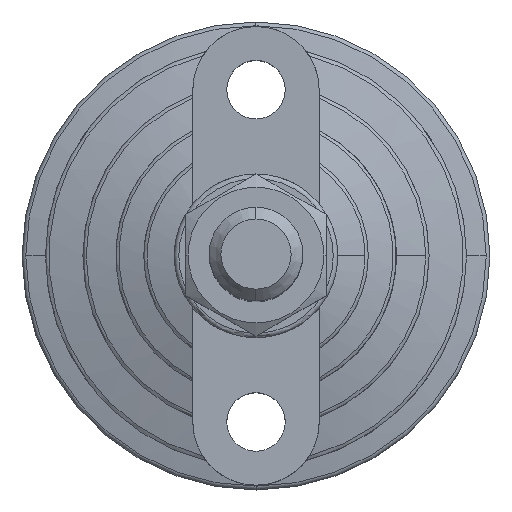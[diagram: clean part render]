
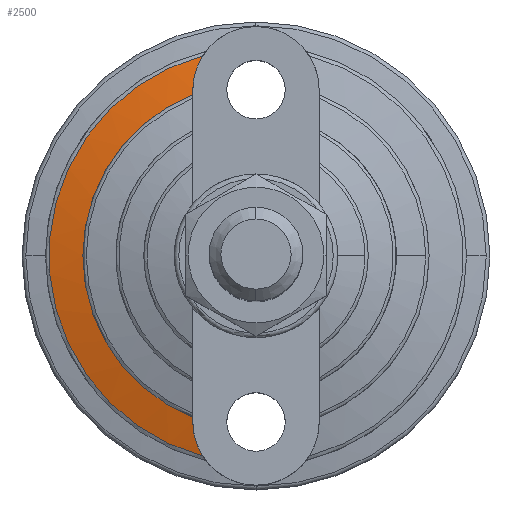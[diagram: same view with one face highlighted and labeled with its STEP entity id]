
A CAD part, top view. The second image highlights one B-rep face of the part: STEP entity #2500.
In plain terms, the highlighted conical face has half-angle 75.964 degrees and reference radius 37 mm.
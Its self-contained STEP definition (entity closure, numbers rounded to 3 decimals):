
#28 = EDGE_CURVE ( 'NONE', #1020, #3276, #953, .T. ) ;
#32 = B_SPLINE_CURVE_WITH_KNOTS ( 'NONE', 3,
 ( #2930, #573, #69, #2732 ),
 .UNSPECIFIED., .F., .F.,
 ( 4, 4 ),
 ( 0., 0.001 ),
 .UNSPECIFIED. ) ;
#35 = DIRECTION ( 'NONE',  ( 0., 0., 1. ) ) ;
#53 = CARTESIAN_POINT ( 'NONE',  ( -11.387, -42.752, 12.189 ) ) ;
#69 = CARTESIAN_POINT ( 'NONE',  ( -13.5, 34.8, 13.918 ) ) ;
#120 = DIRECTION ( 'NONE',  ( 0., 0., -1. ) ) ;
#187 = AXIS2_PLACEMENT_3D ( 'NONE', #2727, #1927, #2995 ) ;
#204 = B_SPLINE_CURVE_WITH_KNOTS ( 'NONE', 3,
 ( #2946, #3043, #612, #1894, #2158, #1881, #3221, #2959 ),
 .UNSPECIFIED., .F., .F.,
 ( 4, 2, 2, 4 ),
 ( 0., 0.004, 0.006, 0.008 ),
 .UNSPECIFIED. ) ;
#256 = ORIENTED_EDGE ( 'NONE', *, *, #28, .T. ) ;
#290 = CARTESIAN_POINT ( 'NONE',  ( -11.387, 42.752, 12.189 ) ) ;
#368 = CARTESIAN_POINT ( 'NONE',  ( -13.5, 35.5, 13.755 ) ) ;
#391 = CARTESIAN_POINT ( 'NONE',  ( -13.5, -34.449, 14. ) ) ;
#392 = CIRCLE ( 'NONE', #2251, 44.243 ) ;
#407 = EDGE_CURVE ( 'NONE', #1608, #3008, #392, .T. ) ;
#445 = EDGE_CURVE ( 'NONE', #3008, #1020, #204, .T. ) ;
#485 = B_SPLINE_CURVE_WITH_KNOTS ( 'NONE', 3,
 ( #290, #1877, #2172, #2384, #2416, #2941, #548, #2118 ),
 .UNSPECIFIED., .F., .F.,
 ( 4, 2, 2, 4 ),
 ( 0., 0.004, 0.006, 0.008 ),
 .UNSPECIFIED. ) ;
#527 = VERTEX_POINT ( 'NONE', #1691 ) ;
#548 = CARTESIAN_POINT ( 'NONE',  ( -13.5, 36.139, 13.606 ) ) ;
#573 = CARTESIAN_POINT ( 'NONE',  ( -13.5, 35.15, 13.837 ) ) ;
#612 = CARTESIAN_POINT ( 'NONE',  ( -12.604, -40.501, 12.647 ) ) ;
#757 = ORIENTED_EDGE ( 'NONE', *, *, #1292, .T. ) ;
#826 = VERTEX_POINT ( 'NONE', #368 ) ;
#858 = CARTESIAN_POINT ( 'NONE',  ( -13.5, -35.5, 13.755 ) ) ;
#953 = B_SPLINE_CURVE_WITH_KNOTS ( 'NONE', 3,
 ( #858, #3272, #1143, #1374 ),
 .UNSPECIFIED., .F., .F.,
 ( 4, 4 ),
 ( 0., 0.001 ),
 .UNSPECIFIED. ) ;
#967 = CONICAL_SURFACE ( 'NONE', #187, 37., 1.326 ) ;
#1020 = VERTEX_POINT ( 'NONE', #2791 ) ;
#1093 = ORIENTED_EDGE ( 'NONE', *, *, #3051, .F. ) ;
#1143 = CARTESIAN_POINT ( 'NONE',  ( -13.5, -34.8, 13.918 ) ) ;
#1243 = DIRECTION ( 'NONE',  ( 0., 1., 0. ) ) ;
#1292 = EDGE_CURVE ( 'NONE', #3276, #527, #1524, .T. ) ;
#1374 = CARTESIAN_POINT ( 'NONE',  ( -13.5, -34.449, 14. ) ) ;
#1524 = CIRCLE ( 'NONE', #2373, 37. ) ;
#1608 = VERTEX_POINT ( 'NONE', #1666 ) ;
#1610 = ORIENTED_EDGE ( 'NONE', *, *, #407, .T. ) ;
#1666 = CARTESIAN_POINT ( 'NONE',  ( -11.387, 42.752, 12.189 ) ) ;
#1691 = CARTESIAN_POINT ( 'NONE',  ( -13.5, 34.449, 14. ) ) ;
#1877 = CARTESIAN_POINT ( 'NONE',  ( -12.082, 41.661, 12.408 ) ) ;
#1881 = CARTESIAN_POINT ( 'NONE',  ( -13.455, -36.774, 13.461 ) ) ;
#1894 = CARTESIAN_POINT ( 'NONE',  ( -13.139, -38.665, 13.041 ) ) ;
#1927 = DIRECTION ( 'NONE',  ( 0., 0., -1. ) ) ;
#1944 = FACE_OUTER_BOUND ( 'NONE', #2848, .T. ) ;
#2118 = CARTESIAN_POINT ( 'NONE',  ( -13.5, 35.5, 13.755 ) ) ;
#2158 = CARTESIAN_POINT ( 'NONE',  ( -13.275, -38.035, 13.179 ) ) ;
#2172 = CARTESIAN_POINT ( 'NONE',  ( -12.604, 40.501, 12.647 ) ) ;
#2175 = ORIENTED_EDGE ( 'NONE', *, *, #445, .T. ) ;
#2251 = AXIS2_PLACEMENT_3D ( 'NONE', #2442, #35, #2419 ) ;
#2322 = EDGE_CURVE ( 'NONE', #1608, #826, #485, .T. ) ;
#2373 = AXIS2_PLACEMENT_3D ( 'NONE', #2801, #120, #1243 ) ;
#2384 = CARTESIAN_POINT ( 'NONE',  ( -13.139, 38.665, 13.041 ) ) ;
#2416 = CARTESIAN_POINT ( 'NONE',  ( -13.275, 38.035, 13.179 ) ) ;
#2419 = DIRECTION ( 'NONE',  ( 0., 1., 0. ) ) ;
#2442 = CARTESIAN_POINT ( 'NONE',  ( 0., 0., 12.189 ) ) ;
#2500 = ADVANCED_FACE ( 'NONE', ( #1944 ), #967, .T. ) ;
#2727 = CARTESIAN_POINT ( 'NONE',  ( 0., 0., 14. ) ) ;
#2732 = CARTESIAN_POINT ( 'NONE',  ( -13.5, 34.449, 14. ) ) ;
#2791 = CARTESIAN_POINT ( 'NONE',  ( -13.5, -35.5, 13.755 ) ) ;
#2801 = CARTESIAN_POINT ( 'NONE',  ( 0., 0., 14. ) ) ;
#2848 = EDGE_LOOP ( 'NONE', ( #256, #757, #1093, #3037, #1610, #2175 ) ) ;
#2930 = CARTESIAN_POINT ( 'NONE',  ( -13.5, 35.5, 13.755 ) ) ;
#2941 = CARTESIAN_POINT ( 'NONE',  ( -13.455, 36.774, 13.461 ) ) ;
#2946 = CARTESIAN_POINT ( 'NONE',  ( -11.387, -42.752, 12.189 ) ) ;
#2959 = CARTESIAN_POINT ( 'NONE',  ( -13.5, -35.5, 13.755 ) ) ;
#2995 = DIRECTION ( 'NONE',  ( 0., 1., 0. ) ) ;
#3008 = VERTEX_POINT ( 'NONE', #53 ) ;
#3037 = ORIENTED_EDGE ( 'NONE', *, *, #2322, .F. ) ;
#3043 = CARTESIAN_POINT ( 'NONE',  ( -12.082, -41.661, 12.408 ) ) ;
#3051 = EDGE_CURVE ( 'NONE', #826, #527, #32, .T. ) ;
#3221 = CARTESIAN_POINT ( 'NONE',  ( -13.5, -36.139, 13.606 ) ) ;
#3272 = CARTESIAN_POINT ( 'NONE',  ( -13.5, -35.15, 13.837 ) ) ;
#3276 = VERTEX_POINT ( 'NONE', #391 ) ;
